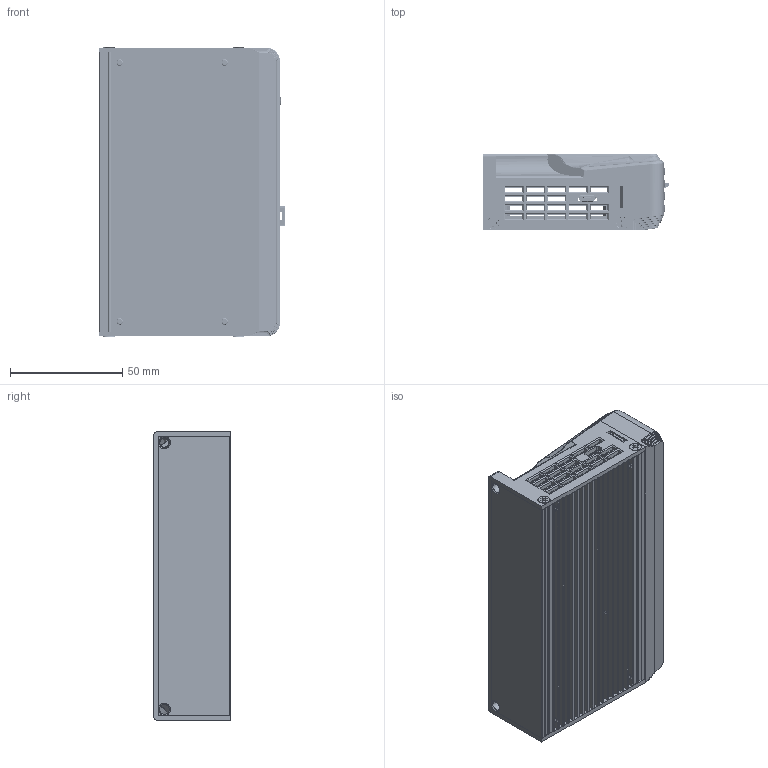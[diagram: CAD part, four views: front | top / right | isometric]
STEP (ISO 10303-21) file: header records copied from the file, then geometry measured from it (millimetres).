
FILE_DESCRIPTION (( 'STEP AP203' ), '1' );
FILE_NAME ('2HCS558.STEP', '2022-02-17T11:24:20', ( 'USER-' ), ( 'MS' ), 'SwSTEP 2.0', 'SolidWorks 2018', '' );
FILE_SCHEMA (( 'CONFIG_CONTROL_DESIGN' ));
Length unit declared in the file: millimetre
Products named in the file (15): 5018761440-16.STEP; M3.STEP; 15EDGRHB-THR-3.81-08P-13-00AH.STEP; 15EDGRHC-THR-3.5-12P-13-00A(H).STEP; 5HCS57 PCB.STEP; RJ45-1-2.STEP; 2HSS560-RC____V1.1.STEP; M3x6________.STEP; 2HCS558.stp.STEP; EC____.STEP; 2HCS558.STEP; MicroUSB-B.STEP; 2HCS558; 2HSS560-RC______V1.0.STEP; E-RC________.STEP
Assembly tree (20 placements, depth 3):
  2HCS558
    2HCS558.STEP
      M3.STEP  x4
      15EDGRHC-THR-3.5-12P-13-00A(H).STEP
      RJ45-1-2.STEP
      M3x6________.STEP  x4
      EC____.STEP
      MicroUSB-B.STEP
      2HSS560-RC______V1.0.STEP
      E-RC________.STEP
      5018761440-16.STEP
      15EDGRHB-THR-3.81-08P-13-00AH.STEP
      5HCS57 PCB.STEP
      2HSS560-RC____V1.1.STEP
      2HCS558.stp.STEP
Bounding box: 82.55 x 34 x 128.95 mm (x, y, z)
Volume: 111183.7 mm3; surface area: 114442.2 mm2
Topology: 40 solids, 40 shells, 5812 faces, 16100 edges, 10336 vertices
Faces by surface type: plane 3892, cylinder 1355, bspline 367, cone 102, torus 52, sphere 44
Entity records: 192849 total; most frequent: CARTESIAN_POINT 55423, ORIENTED_EDGE 29860, DIRECTION 25672, EDGE_CURVE 14930, VECTOR 11478, LINE 11478, VERTEX_POINT 9704, AXIS2_PLACEMENT_3D 7097
